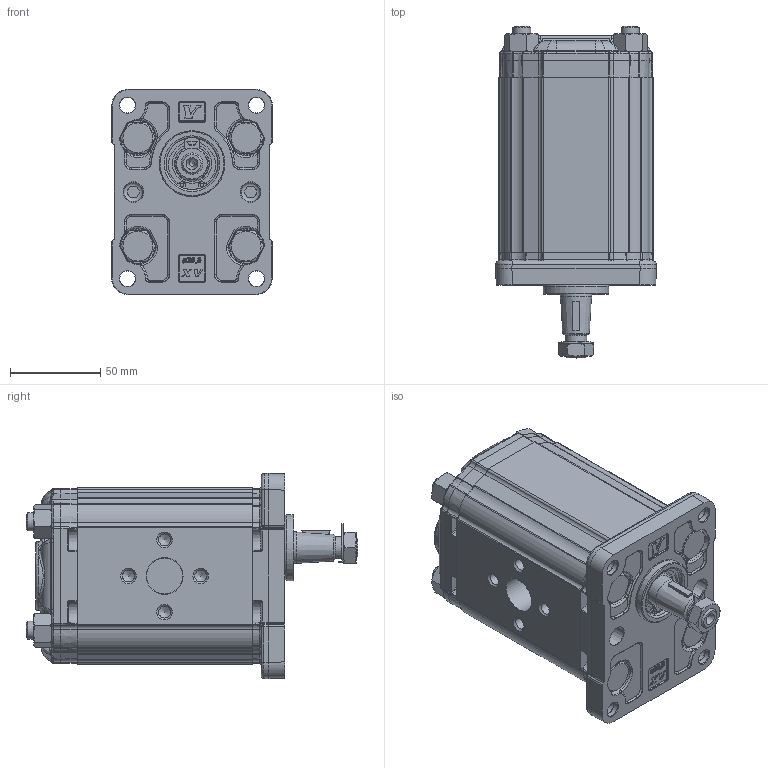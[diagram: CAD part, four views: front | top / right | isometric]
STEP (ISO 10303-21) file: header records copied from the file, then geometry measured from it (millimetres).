
FILE_DESCRIPTION(/* description */ ('Unknown'),/* implementation_level */ '2;1');
FILE_NAME(/* name */ 'X2P6101EQPA',/* time_stamp */ '2026-06-03T17:39:01+02:00',/* author */ ('Unknown'),/* organization */ ('Unknown'),/* preprocessor_version */ 'ST-DEVELOPER v16.7',/* originating_system */ 'Solid Edge',/* authorisation */ 'Unknown');
FILE_SCHEMA (('AUTOMOTIVE_DESIGN {1 0 10303 214 3 1 1}'));
Products named in the file (5): X2P6101EQPA; X2P01; 2E; X2QPH97; XP201-A
Assembly tree (4 placements, depth 2):
  X2P6101EQPA
    X2P01
    2E
    X2QPH97
    XP201-A
Bounding box: 89 x 183.95 x 113.7 mm (x, y, z)
Volume: 994261.5 mm3; surface area: 137408.2 mm2
Topology: 4 solids, 5 shells, 2445 faces, 5989 edges, 3635 vertices
Faces by surface type: cylinder 638, bspline 623, plane 595, torus 293, cone 265, sphere 31
Full cylindrical faces by diameter (mm): 2 x2, 6.647 x8, 8.796 x4, 8.798 x4, 10 x12, 10.5 x12, 11.5 x4, 12 x2, 12.5 x1, 16 x4, 17.42 x1, 17.48 x2, 18.724 x1, 20 x1, 20.595 x1, 21.741 x1, 23.5 x1, 25 x1, 25.834 x1, 28.56 x1, 28.57 x1, 28.8 x1, 30.5 x1, 36.5 x1
Entity records: 111055 total; most frequent: CARTESIAN_POINT 42875, ORIENTED_EDGE 11230, DIRECTION 9075, EDGE_CURVE 5615, AXIS2_PLACEMENT_3D 3611, VERTEX_POINT 3530, FACE_BOUND 2833, EDGE_LOOP 2823
